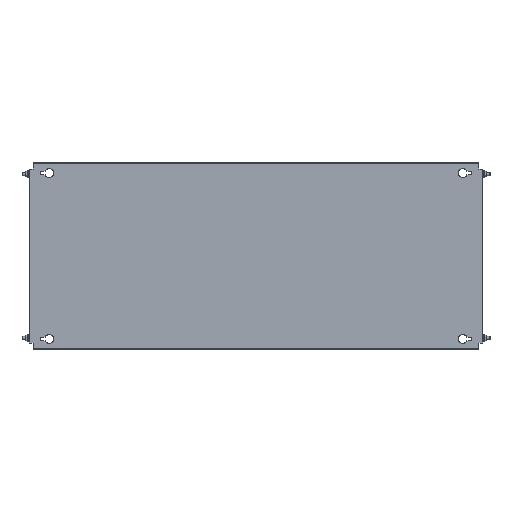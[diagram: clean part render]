
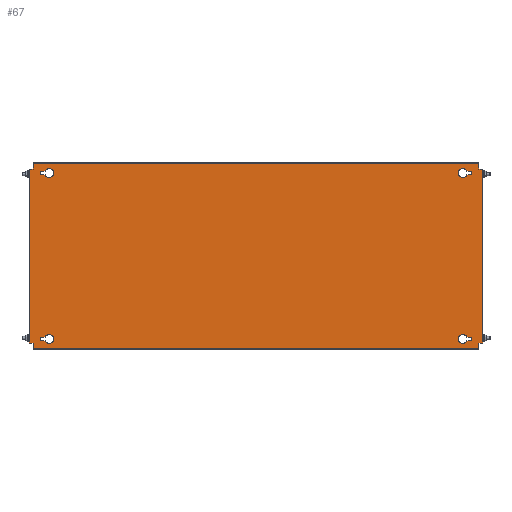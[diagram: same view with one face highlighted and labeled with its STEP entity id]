
A CAD part, top view. The second image highlights one B-rep face of the part: STEP entity #67.
In plain terms, the highlighted planar face has unit normal (0, 0, 1).
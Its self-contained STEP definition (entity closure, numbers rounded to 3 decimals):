
#67 = ADVANCED_FACE('',(#68,#103,#138,#300,#335),#370,.T.);
#68 = FACE_BOUND('',#69,.T.);
#69 = EDGE_LOOP('',(#70,#80,#88,#96));
#70 = ORIENTED_EDGE('',*,*,#71,.T.);
#71 = EDGE_CURVE('',#72,#74,#76,.T.);
#72 = VERTEX_POINT('',#73);
#73 = CARTESIAN_POINT('',(418.393,167.75,2.));
#74 = VERTEX_POINT('',#75);
#75 = CARTESIAN_POINT('',(428.,167.75,2.));
#76 = LINE('',#77,#78);
#77 = CARTESIAN_POINT('',(427.,167.75,2.));
#78 = VECTOR('',#79,1.);
#79 = DIRECTION('',(1.,0.,0.));
#80 = ORIENTED_EDGE('',*,*,#81,.T.);
#81 = EDGE_CURVE('',#74,#82,#84,.T.);
#82 = VERTEX_POINT('',#83);
#83 = CARTESIAN_POINT('',(428.,161.25,2.));
#84 = LINE('',#85,#86);
#85 = CARTESIAN_POINT('',(428.,167.75,2.));
#86 = VECTOR('',#87,1.);
#87 = DIRECTION('',(0.,-1.,0.));
#88 = ORIENTED_EDGE('',*,*,#89,.T.);
#89 = EDGE_CURVE('',#82,#90,#92,.T.);
#90 = VERTEX_POINT('',#91);
#91 = CARTESIAN_POINT('',(418.393,161.25,2.));
#92 = LINE('',#93,#94);
#93 = CARTESIAN_POINT('',(427.,161.25,2.));
#94 = VECTOR('',#95,1.);
#95 = DIRECTION('',(-1.,0.,0.));
#96 = ORIENTED_EDGE('',*,*,#97,.T.);
#97 = EDGE_CURVE('',#90,#72,#98,.T.);
#98 = CIRCLE('',#99,9.);
#99 = AXIS2_PLACEMENT_3D('',#100,#101,#102);
#100 = CARTESIAN_POINT('',(410.,164.5,2.));
#101 = DIRECTION('',(0.,0.,-1.));
#102 = DIRECTION('',(1.,0.,0.));
#103 = FACE_BOUND('',#104,.T.);
#104 = EDGE_LOOP('',(#105,#115,#123,#131));
#105 = ORIENTED_EDGE('',*,*,#106,.T.);
#106 = EDGE_CURVE('',#107,#109,#111,.T.);
#107 = VERTEX_POINT('',#108);
#108 = CARTESIAN_POINT('',(-418.393,-167.75,2.));
#109 = VERTEX_POINT('',#110);
#110 = CARTESIAN_POINT('',(-428.,-167.75,2.));
#111 = LINE('',#112,#113);
#112 = CARTESIAN_POINT('',(-427.,-167.75,2.));
#113 = VECTOR('',#114,1.);
#114 = DIRECTION('',(-1.,0.,0.));
#115 = ORIENTED_EDGE('',*,*,#116,.T.);
#116 = EDGE_CURVE('',#109,#117,#119,.T.);
#117 = VERTEX_POINT('',#118);
#118 = CARTESIAN_POINT('',(-428.,-161.25,2.));
#119 = LINE('',#120,#121);
#120 = CARTESIAN_POINT('',(-428.,-167.75,2.));
#121 = VECTOR('',#122,1.);
#122 = DIRECTION('',(0.,1.,0.));
#123 = ORIENTED_EDGE('',*,*,#124,.T.);
#124 = EDGE_CURVE('',#117,#125,#127,.T.);
#125 = VERTEX_POINT('',#126);
#126 = CARTESIAN_POINT('',(-418.393,-161.25,2.));
#127 = LINE('',#128,#129);
#128 = CARTESIAN_POINT('',(-427.,-161.25,2.));
#129 = VECTOR('',#130,1.);
#130 = DIRECTION('',(1.,-0.,-0.));
#131 = ORIENTED_EDGE('',*,*,#132,.T.);
#132 = EDGE_CURVE('',#125,#107,#133,.T.);
#133 = CIRCLE('',#134,9.);
#134 = AXIS2_PLACEMENT_3D('',#135,#136,#137);
#135 = CARTESIAN_POINT('',(-410.,-164.5,2.));
#136 = DIRECTION('',(0.,0.,-1.));
#137 = DIRECTION('',(-1.,0.,0.));
#138 = FACE_BOUND('',#139,.T.);
#139 = EDGE_LOOP('',(#140,#150,#158,#166,#174,#182,#190,#198,#206,#214,
    #222,#230,#238,#246,#254,#262,#270,#278,#286,#294));
#140 = ORIENTED_EDGE('',*,*,#141,.F.);
#141 = EDGE_CURVE('',#142,#144,#146,.T.);
#142 = VERTEX_POINT('',#143);
#143 = CARTESIAN_POINT('',(-447.4,172.5,2.));
#144 = VERTEX_POINT('',#145);
#145 = CARTESIAN_POINT('',(-442.,172.5,2.));
#146 = LINE('',#147,#148);
#147 = CARTESIAN_POINT('',(-448.,172.5,2.));
#148 = VECTOR('',#149,1.);
#149 = DIRECTION('',(1.,0.,-0.));
#150 = ORIENTED_EDGE('',*,*,#151,.T.);
#151 = EDGE_CURVE('',#142,#152,#154,.T.);
#152 = VERTEX_POINT('',#153);
#153 = CARTESIAN_POINT('',(-450.,172.5,2.));
#154 = LINE('',#155,#156);
#155 = CARTESIAN_POINT('',(-447.4,172.5,2.));
#156 = VECTOR('',#157,1.);
#157 = DIRECTION('',(-1.,0.,0.));
#158 = ORIENTED_EDGE('',*,*,#159,.F.);
#159 = EDGE_CURVE('',#160,#152,#162,.T.);
#160 = VERTEX_POINT('',#161);
#161 = CARTESIAN_POINT('',(-450.,-172.5,2.));
#162 = LINE('',#163,#164);
#163 = CARTESIAN_POINT('',(-450.,-182.5,2.));
#164 = VECTOR('',#165,1.);
#165 = DIRECTION('',(0.,1.,-0.));
#166 = ORIENTED_EDGE('',*,*,#167,.F.);
#167 = EDGE_CURVE('',#168,#160,#170,.T.);
#168 = VERTEX_POINT('',#169);
#169 = CARTESIAN_POINT('',(-447.4,-172.5,2.));
#170 = LINE('',#171,#172);
#171 = CARTESIAN_POINT('',(-442.,-172.5,2.));
#172 = VECTOR('',#173,1.);
#173 = DIRECTION('',(-1.,-0.,-0.));
#174 = ORIENTED_EDGE('',*,*,#175,.T.);
#175 = EDGE_CURVE('',#168,#176,#178,.T.);
#176 = VERTEX_POINT('',#177);
#177 = CARTESIAN_POINT('',(-442.,-172.5,2.));
#178 = LINE('',#179,#180);
#179 = CARTESIAN_POINT('',(-448.,-172.5,2.));
#180 = VECTOR('',#181,1.);
#181 = DIRECTION('',(1.,0.,-0.));
#182 = ORIENTED_EDGE('',*,*,#183,.T.);
#183 = EDGE_CURVE('',#176,#184,#186,.T.);
#184 = VERTEX_POINT('',#185);
#185 = CARTESIAN_POINT('',(-442.,-181.9,2.));
#186 = LINE('',#187,#188);
#187 = CARTESIAN_POINT('',(-442.,182.5,2.));
#188 = VECTOR('',#189,1.);
#189 = DIRECTION('',(0.,-1.,0.));
#190 = ORIENTED_EDGE('',*,*,#191,.T.);
#191 = EDGE_CURVE('',#184,#192,#194,.T.);
#192 = VERTEX_POINT('',#193);
#193 = CARTESIAN_POINT('',(-442.,-182.5,2.));
#194 = LINE('',#195,#196);
#195 = CARTESIAN_POINT('',(-442.,-181.9,2.));
#196 = VECTOR('',#197,1.);
#197 = DIRECTION('',(-0.,-1.,-0.));
#198 = ORIENTED_EDGE('',*,*,#199,.T.);
#199 = EDGE_CURVE('',#192,#200,#202,.T.);
#200 = VERTEX_POINT('',#201);
#201 = CARTESIAN_POINT('',(442.,-182.5,2.));
#202 = LINE('',#203,#204);
#203 = CARTESIAN_POINT('',(442.,-182.5,2.));
#204 = VECTOR('',#205,1.);
#205 = DIRECTION('',(1.,0.,0.));
#206 = ORIENTED_EDGE('',*,*,#207,.F.);
#207 = EDGE_CURVE('',#208,#200,#210,.T.);
#208 = VERTEX_POINT('',#209);
#209 = CARTESIAN_POINT('',(442.,-181.9,2.));
#210 = LINE('',#211,#212);
#211 = CARTESIAN_POINT('',(442.,-182.5,2.));
#212 = VECTOR('',#213,1.);
#213 = DIRECTION('',(0.,-1.,0.));
#214 = ORIENTED_EDGE('',*,*,#215,.T.);
#215 = EDGE_CURVE('',#208,#216,#218,.T.);
#216 = VERTEX_POINT('',#217);
#217 = CARTESIAN_POINT('',(442.,-172.5,2.));
#218 = LINE('',#219,#220);
#219 = CARTESIAN_POINT('',(442.,182.5,2.));
#220 = VECTOR('',#221,1.);
#221 = DIRECTION('',(0.,1.,-0.));
#222 = ORIENTED_EDGE('',*,*,#223,.F.);
#223 = EDGE_CURVE('',#224,#216,#226,.T.);
#224 = VERTEX_POINT('',#225);
#225 = CARTESIAN_POINT('',(447.4,-172.5,2.));
#226 = LINE('',#227,#228);
#227 = CARTESIAN_POINT('',(448.,-172.5,2.));
#228 = VECTOR('',#229,1.);
#229 = DIRECTION('',(-1.,0.,-0.));
#230 = ORIENTED_EDGE('',*,*,#231,.T.);
#231 = EDGE_CURVE('',#224,#232,#234,.T.);
#232 = VERTEX_POINT('',#233);
#233 = CARTESIAN_POINT('',(450.,-172.5,2.));
#234 = LINE('',#235,#236);
#235 = CARTESIAN_POINT('',(447.4,-172.5,2.));
#236 = VECTOR('',#237,1.);
#237 = DIRECTION('',(1.,-0.,0.));
#238 = ORIENTED_EDGE('',*,*,#239,.F.);
#239 = EDGE_CURVE('',#240,#232,#242,.T.);
#240 = VERTEX_POINT('',#241);
#241 = CARTESIAN_POINT('',(450.,172.5,2.));
#242 = LINE('',#243,#244);
#243 = CARTESIAN_POINT('',(450.,-182.5,2.));
#244 = VECTOR('',#245,1.);
#245 = DIRECTION('',(0.,-1.,-0.));
#246 = ORIENTED_EDGE('',*,*,#247,.F.);
#247 = EDGE_CURVE('',#248,#240,#250,.T.);
#248 = VERTEX_POINT('',#249);
#249 = CARTESIAN_POINT('',(447.4,172.5,2.));
#250 = LINE('',#251,#252);
#251 = CARTESIAN_POINT('',(-442.,172.5,2.));
#252 = VECTOR('',#253,1.);
#253 = DIRECTION('',(1.,-0.,0.));
#254 = ORIENTED_EDGE('',*,*,#255,.T.);
#255 = EDGE_CURVE('',#248,#256,#258,.T.);
#256 = VERTEX_POINT('',#257);
#257 = CARTESIAN_POINT('',(442.,172.5,2.));
#258 = LINE('',#259,#260);
#259 = CARTESIAN_POINT('',(448.,172.5,2.));
#260 = VECTOR('',#261,1.);
#261 = DIRECTION('',(-1.,0.,-0.));
#262 = ORIENTED_EDGE('',*,*,#263,.T.);
#263 = EDGE_CURVE('',#256,#264,#266,.T.);
#264 = VERTEX_POINT('',#265);
#265 = CARTESIAN_POINT('',(442.,181.9,2.));
#266 = LINE('',#267,#268);
#267 = CARTESIAN_POINT('',(442.,182.5,2.));
#268 = VECTOR('',#269,1.);
#269 = DIRECTION('',(0.,1.,-0.));
#270 = ORIENTED_EDGE('',*,*,#271,.T.);
#271 = EDGE_CURVE('',#264,#272,#274,.T.);
#272 = VERTEX_POINT('',#273);
#273 = CARTESIAN_POINT('',(442.,182.5,2.));
#274 = LINE('',#275,#276);
#275 = CARTESIAN_POINT('',(442.,181.9,2.));
#276 = VECTOR('',#277,1.);
#277 = DIRECTION('',(-0.,1.,-0.));
#278 = ORIENTED_EDGE('',*,*,#279,.T.);
#279 = EDGE_CURVE('',#272,#280,#282,.T.);
#280 = VERTEX_POINT('',#281);
#281 = CARTESIAN_POINT('',(-442.,182.5,2.));
#282 = LINE('',#283,#284);
#283 = CARTESIAN_POINT('',(-442.,182.5,2.));
#284 = VECTOR('',#285,1.);
#285 = DIRECTION('',(-1.,0.,0.));
#286 = ORIENTED_EDGE('',*,*,#287,.F.);
#287 = EDGE_CURVE('',#288,#280,#290,.T.);
#288 = VERTEX_POINT('',#289);
#289 = CARTESIAN_POINT('',(-442.,181.9,2.));
#290 = LINE('',#291,#292);
#291 = CARTESIAN_POINT('',(-442.,-182.5,2.));
#292 = VECTOR('',#293,1.);
#293 = DIRECTION('',(0.,1.,-0.));
#294 = ORIENTED_EDGE('',*,*,#295,.T.);
#295 = EDGE_CURVE('',#288,#144,#296,.T.);
#296 = LINE('',#297,#298);
#297 = CARTESIAN_POINT('',(-442.,182.5,2.));
#298 = VECTOR('',#299,1.);
#299 = DIRECTION('',(0.,-1.,0.));
#300 = FACE_BOUND('',#301,.T.);
#301 = EDGE_LOOP('',(#302,#312,#320,#328));
#302 = ORIENTED_EDGE('',*,*,#303,.F.);
#303 = EDGE_CURVE('',#304,#306,#308,.T.);
#304 = VERTEX_POINT('',#305);
#305 = CARTESIAN_POINT('',(428.,-161.25,2.));
#306 = VERTEX_POINT('',#307);
#307 = CARTESIAN_POINT('',(418.393,-161.25,2.));
#308 = LINE('',#309,#310);
#309 = CARTESIAN_POINT('',(418.393,-161.25,2.));
#310 = VECTOR('',#311,1.);
#311 = DIRECTION('',(-1.,0.,0.));
#312 = ORIENTED_EDGE('',*,*,#313,.F.);
#313 = EDGE_CURVE('',#314,#304,#316,.T.);
#314 = VERTEX_POINT('',#315);
#315 = CARTESIAN_POINT('',(428.,-167.75,2.));
#316 = LINE('',#317,#318);
#317 = CARTESIAN_POINT('',(428.,-161.25,2.));
#318 = VECTOR('',#319,1.);
#319 = DIRECTION('',(0.,1.,0.));
#320 = ORIENTED_EDGE('',*,*,#321,.F.);
#321 = EDGE_CURVE('',#322,#314,#324,.T.);
#322 = VERTEX_POINT('',#323);
#323 = CARTESIAN_POINT('',(418.393,-167.75,2.));
#324 = LINE('',#325,#326);
#325 = CARTESIAN_POINT('',(427.,-167.75,2.));
#326 = VECTOR('',#327,1.);
#327 = DIRECTION('',(1.,0.,0.));
#328 = ORIENTED_EDGE('',*,*,#329,.F.);
#329 = EDGE_CURVE('',#306,#322,#330,.T.);
#330 = CIRCLE('',#331,9.);
#331 = AXIS2_PLACEMENT_3D('',#332,#333,#334);
#332 = CARTESIAN_POINT('',(410.,-164.5,2.));
#333 = DIRECTION('',(0.,-0.,1.));
#334 = DIRECTION('',(1.,0.,0.));
#335 = FACE_BOUND('',#336,.T.);
#336 = EDGE_LOOP('',(#337,#347,#355,#363));
#337 = ORIENTED_EDGE('',*,*,#338,.F.);
#338 = EDGE_CURVE('',#339,#341,#343,.T.);
#339 = VERTEX_POINT('',#340);
#340 = CARTESIAN_POINT('',(-428.,161.25,2.));
#341 = VERTEX_POINT('',#342);
#342 = CARTESIAN_POINT('',(-418.393,161.25,2.));
#343 = LINE('',#344,#345);
#344 = CARTESIAN_POINT('',(-418.393,161.25,2.));
#345 = VECTOR('',#346,1.);
#346 = DIRECTION('',(1.,0.,0.));
#347 = ORIENTED_EDGE('',*,*,#348,.F.);
#348 = EDGE_CURVE('',#349,#339,#351,.T.);
#349 = VERTEX_POINT('',#350);
#350 = CARTESIAN_POINT('',(-428.,167.75,2.));
#351 = LINE('',#352,#353);
#352 = CARTESIAN_POINT('',(-428.,161.25,2.));
#353 = VECTOR('',#354,1.);
#354 = DIRECTION('',(0.,-1.,0.));
#355 = ORIENTED_EDGE('',*,*,#356,.F.);
#356 = EDGE_CURVE('',#357,#349,#359,.T.);
#357 = VERTEX_POINT('',#358);
#358 = CARTESIAN_POINT('',(-418.393,167.75,2.));
#359 = LINE('',#360,#361);
#360 = CARTESIAN_POINT('',(-427.,167.75,2.));
#361 = VECTOR('',#362,1.);
#362 = DIRECTION('',(-1.,0.,0.));
#363 = ORIENTED_EDGE('',*,*,#364,.F.);
#364 = EDGE_CURVE('',#341,#357,#365,.T.);
#365 = CIRCLE('',#366,9.);
#366 = AXIS2_PLACEMENT_3D('',#367,#368,#369);
#367 = CARTESIAN_POINT('',(-410.,164.5,2.));
#368 = DIRECTION('',(0.,-0.,1.));
#369 = DIRECTION('',(-1.,0.,0.));
#370 = PLANE('',#371);
#371 = AXIS2_PLACEMENT_3D('',#372,#373,#374);
#372 = CARTESIAN_POINT('',(-442.,-182.5,2.));
#373 = DIRECTION('',(-0.,0.,1.));
#374 = DIRECTION('',(1.,0.,0.));
